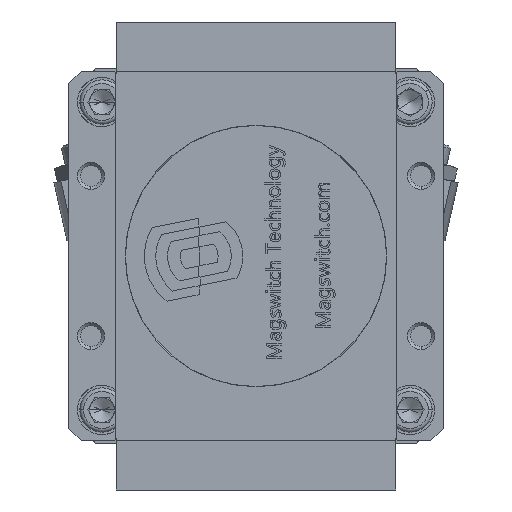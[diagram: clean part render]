
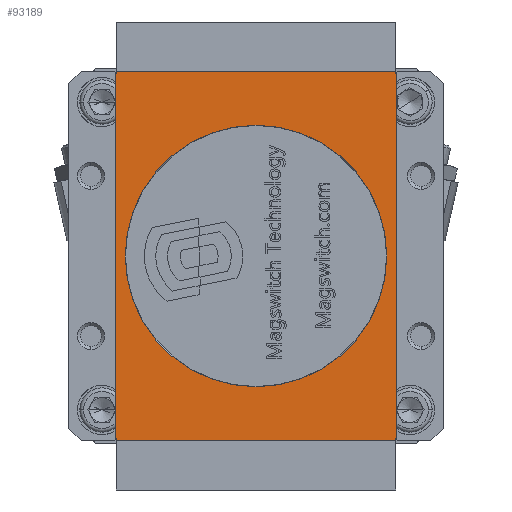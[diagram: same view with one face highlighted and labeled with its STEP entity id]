
A CAD part, front view. The second image highlights one B-rep face of the part: STEP entity #93189.
In plain terms, the highlighted planar face has unit normal (0, -1, 0).
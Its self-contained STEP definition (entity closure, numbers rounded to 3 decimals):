
#22 = DIRECTION ( 'NONE',  ( 0., 1., 0. ) ) ;
#2008 = CARTESIAN_POINT ( 'NONE',  ( -55.95, 0., 74.9 ) ) ;
#2098 = DIRECTION ( 'NONE',  ( 0., 1., 0. ) ) ;
#4519 = EDGE_CURVE ( 'NONE', #32709, #43092, #66767, .T. ) ;
#5356 = DIRECTION ( 'NONE',  ( -1., 0., 0. ) ) ;
#5991 = CIRCLE ( 'NONE', #15137, 0.9 ) ;
#6436 = LINE ( 'NONE', #111375, #66980 ) ;
#6762 = DIRECTION ( 'NONE',  ( -1., 0., 0. ) ) ;
#7017 = DIRECTION ( 'NONE',  ( 0., 0., -1. ) ) ;
#7971 = DIRECTION ( 'NONE',  ( 0., 1., 0. ) ) ;
#8926 = ORIENTED_EDGE ( 'NONE', *, *, #45331, .T. ) ;
#10445 = VECTOR ( 'NONE', #56861, 1000. ) ;
#11034 = CARTESIAN_POINT ( 'NONE',  ( -56.85, 0., 74. ) ) ;
#15137 = AXIS2_PLACEMENT_3D ( 'NONE', #90386, #92509, #5356 ) ;
#15685 = CARTESIAN_POINT ( 'NONE',  ( 56.85, 0., -75. ) ) ;
#15770 = VECTOR ( 'NONE', #6762, 1000. ) ;
#16566 = VERTEX_POINT ( 'NONE', #2008 ) ;
#18344 = PLANE ( 'NONE',  #40077 ) ;
#18762 = CIRCLE ( 'NONE', #57179, 0.9 ) ;
#19860 = DIRECTION ( 'NONE',  ( -1., 0., 0. ) ) ;
#22420 = CARTESIAN_POINT ( 'NONE',  ( -56.95, 0., -74.9 ) ) ;
#25096 = EDGE_CURVE ( 'NONE', #16566, #103869, #5991, .T. ) ;
#25742 = CARTESIAN_POINT ( 'NONE',  ( 0., 0., 0. ) ) ;
#25806 = CARTESIAN_POINT ( 'NONE',  ( -56.95, 0., -75. ) ) ;
#25890 = ORIENTED_EDGE ( 'NONE', *, *, #47893, .T. ) ;
#26862 = VERTEX_POINT ( 'NONE', #39003 ) ;
#32231 = AXIS2_PLACEMENT_3D ( 'NONE', #96208, #2098, #107610 ) ;
#32709 = VERTEX_POINT ( 'NONE', #103572 ) ;
#32723 = EDGE_LOOP ( 'NONE', ( #43086, #60821, #44454, #90766, #87915, #41253, #8926, #25890 ) ) ;
#35615 = CARTESIAN_POINT ( 'NONE',  ( -55.95, 0., -74. ) ) ;
#37365 = VECTOR ( 'NONE', #49541, 1000. ) ;
#37869 = EDGE_CURVE ( 'NONE', #83779, #26862, #18762, .T. ) ;
#39003 = CARTESIAN_POINT ( 'NONE',  ( 55.95, 0., 74.9 ) ) ;
#40077 = AXIS2_PLACEMENT_3D ( 'NONE', #25806, #22, #60827 ) ;
#41253 = ORIENTED_EDGE ( 'NONE', *, *, #42371, .T. ) ;
#41824 = DIRECTION ( 'NONE',  ( 0., -1., 0. ) ) ;
#42371 = EDGE_CURVE ( 'NONE', #103869, #57366, #6436, .T. ) ;
#43086 = ORIENTED_EDGE ( 'NONE', *, *, #4519, .T. ) ;
#43092 = VERTEX_POINT ( 'NONE', #111965 ) ;
#44454 = ORIENTED_EDGE ( 'NONE', *, *, #37869, .T. ) ;
#44781 = CARTESIAN_POINT ( 'NONE',  ( 56.85, 0., 74. ) ) ;
#45331 = EDGE_CURVE ( 'NONE', #57366, #89178, #89223, .T. ) ;
#46839 = EDGE_CURVE ( 'NONE', #26862, #16566, #85354, .T. ) ;
#47061 = ORIENTED_EDGE ( 'NONE', *, *, #112314, .T. ) ;
#47893 = EDGE_CURVE ( 'NONE', #89178, #32709, #73512, .T. ) ;
#49541 = DIRECTION ( 'NONE',  ( 0., 0., 1. ) ) ;
#54202 = CIRCLE ( 'NONE', #110906, 53.1 ) ;
#56861 = DIRECTION ( 'NONE',  ( 1., 0., 0. ) ) ;
#57179 = AXIS2_PLACEMENT_3D ( 'NONE', #57912, #41824, #111768 ) ;
#57366 = VERTEX_POINT ( 'NONE', #65552 ) ;
#57912 = CARTESIAN_POINT ( 'NONE',  ( 55.95, 0., 74. ) ) ;
#58969 = CARTESIAN_POINT ( 'NONE',  ( -55.95, 0., -74.9 ) ) ;
#59333 = CARTESIAN_POINT ( 'NONE',  ( 53.1, 0., 0. ) ) ;
#60459 = VERTEX_POINT ( 'NONE', #73032 ) ;
#60821 = ORIENTED_EDGE ( 'NONE', *, *, #109422, .T. ) ;
#60827 = DIRECTION ( 'NONE',  ( -1., 0., 0. ) ) ;
#63387 = CIRCLE ( 'NONE', #32231, 53.1 ) ;
#63745 = DIRECTION ( 'NONE',  ( -1., 0., 0. ) ) ;
#65552 = CARTESIAN_POINT ( 'NONE',  ( -56.85, 0., -74. ) ) ;
#66726 = EDGE_LOOP ( 'NONE', ( #47061, #95442 ) ) ;
#66767 = CIRCLE ( 'NONE', #105201, 0.9 ) ;
#66980 = VECTOR ( 'NONE', #7017, 1000. ) ;
#69289 = CARTESIAN_POINT ( 'NONE',  ( -56.95, 0., 74.9 ) ) ;
#73032 = CARTESIAN_POINT ( 'NONE',  ( -53.1, 0., 0. ) ) ;
#73512 = LINE ( 'NONE', #22420, #10445 ) ;
#79098 = DIRECTION ( 'NONE',  ( -1., 0., 0. ) ) ;
#83779 = VERTEX_POINT ( 'NONE', #44781 ) ;
#84223 = EDGE_CURVE ( 'NONE', #60459, #110138, #54202, .T. ) ;
#85354 = LINE ( 'NONE', #69289, #15770 ) ;
#87915 = ORIENTED_EDGE ( 'NONE', *, *, #25096, .T. ) ;
#89178 = VERTEX_POINT ( 'NONE', #58969 ) ;
#89223 = CIRCLE ( 'NONE', #100199, 0.9 ) ;
#90087 = DIRECTION ( 'NONE',  ( 0., -1., 0. ) ) ;
#90386 = CARTESIAN_POINT ( 'NONE',  ( -55.95, 0., 74. ) ) ;
#90766 = ORIENTED_EDGE ( 'NONE', *, *, #46839, .T. ) ;
#90989 = CARTESIAN_POINT ( 'NONE',  ( 55.95, 0., -74. ) ) ;
#92509 = DIRECTION ( 'NONE',  ( 0., -1., 0. ) ) ;
#93189 = ADVANCED_FACE ( 'NONE', ( #111847, #104400 ), #18344, .F. ) ;
#95442 = ORIENTED_EDGE ( 'NONE', *, *, #84223, .T. ) ;
#96208 = CARTESIAN_POINT ( 'NONE',  ( 0., 0., 0. ) ) ;
#100199 = AXIS2_PLACEMENT_3D ( 'NONE', #35615, #90087, #63745 ) ;
#102871 = LINE ( 'NONE', #15685, #37365 ) ;
#103572 = CARTESIAN_POINT ( 'NONE',  ( 55.95, 0., -74.9 ) ) ;
#103869 = VERTEX_POINT ( 'NONE', #11034 ) ;
#104400 = FACE_BOUND ( 'NONE', #66726, .T. ) ;
#105201 = AXIS2_PLACEMENT_3D ( 'NONE', #90989, #107611, #19860 ) ;
#107610 = DIRECTION ( 'NONE',  ( -1., 0., 0. ) ) ;
#107611 = DIRECTION ( 'NONE',  ( 0., -1., 0. ) ) ;
#109422 = EDGE_CURVE ( 'NONE', #43092, #83779, #102871, .T. ) ;
#110138 = VERTEX_POINT ( 'NONE', #59333 ) ;
#110906 = AXIS2_PLACEMENT_3D ( 'NONE', #25742, #7971, #79098 ) ;
#111375 = CARTESIAN_POINT ( 'NONE',  ( -56.85, 0., -75. ) ) ;
#111768 = DIRECTION ( 'NONE',  ( -1., 0., 0. ) ) ;
#111847 = FACE_OUTER_BOUND ( 'NONE', #32723, .T. ) ;
#111965 = CARTESIAN_POINT ( 'NONE',  ( 56.85, 0., -74. ) ) ;
#112314 = EDGE_CURVE ( 'NONE', #110138, #60459, #63387, .T. ) ;
